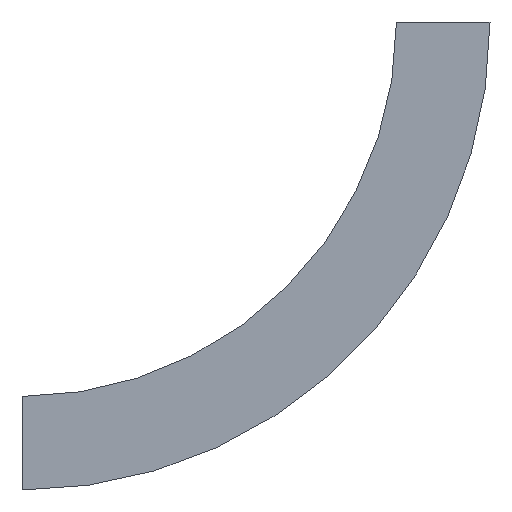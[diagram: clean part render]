
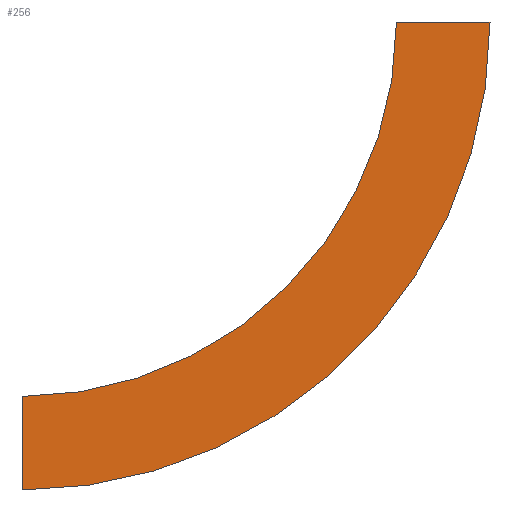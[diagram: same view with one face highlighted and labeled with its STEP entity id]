
A CAD part, left-side view. The second image highlights one B-rep face of the part: STEP entity #256.
In plain terms, the highlighted planar face has unit normal (-1, 0, 0) as drawn and (1, 0, 0) by its records, which use the part's own axes.
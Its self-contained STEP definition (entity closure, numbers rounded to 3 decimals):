
#7 = LINE ( 'NONE', #177, #141 ) ;
#19 = DIRECTION ( 'NONE',  ( 0., -1., 0. ) ) ;
#21 = CIRCLE ( 'NONE', #130, 300. ) ;
#55 = DIRECTION ( 'NONE',  ( 0., 0., 1. ) ) ;
#84 = EDGE_CURVE ( 'NONE', #325, #444, #21, .T. ) ;
#93 = LINE ( 'NONE', #188, #490 ) ;
#107 = EDGE_CURVE ( 'NONE', #503, #394, #242, .T. ) ;
#108 = PLANE ( 'NONE',  #567 ) ;
#130 = AXIS2_PLACEMENT_3D ( 'NONE', #403, #189, #543 ) ;
#141 = VECTOR ( 'NONE', #191, 1000. ) ;
#177 = CARTESIAN_POINT ( 'NONE',  ( 0., -75., 0. ) ) ;
#188 = CARTESIAN_POINT ( 'NONE',  ( 0., 300., -375. ) ) ;
#189 = DIRECTION ( 'NONE',  ( 1., 0., 0. ) ) ;
#191 = DIRECTION ( 'NONE',  ( 0., 1., 0. ) ) ;
#193 = DIRECTION ( 'NONE',  ( 1., 0., 0. ) ) ;
#217 = EDGE_CURVE ( 'NONE', #394, #444, #93, .T. ) ;
#242 = CIRCLE ( 'NONE', #572, 375. ) ;
#250 = CARTESIAN_POINT ( 'NONE',  ( 0., 300., -375. ) ) ;
#254 = EDGE_CURVE ( 'NONE', #503, #325, #7, .T. ) ;
#255 = ORIENTED_EDGE ( 'NONE', *, *, #254, .F. ) ;
#256 = ADVANCED_FACE ( 'NONE', ( #283 ), #108, .F. ) ;
#283 = FACE_OUTER_BOUND ( 'NONE', #579, .T. ) ;
#309 = CARTESIAN_POINT ( 'NONE',  ( 0., -75., 0. ) ) ;
#314 = ORIENTED_EDGE ( 'NONE', *, *, #107, .T. ) ;
#325 = VERTEX_POINT ( 'NONE', #544 ) ;
#327 = DIRECTION ( 'NONE',  ( -1., 0., 0. ) ) ;
#347 = ORIENTED_EDGE ( 'NONE', *, *, #217, .T. ) ;
#363 = DIRECTION ( 'NONE',  ( 0., 0., 1. ) ) ;
#365 = ORIENTED_EDGE ( 'NONE', *, *, #84, .F. ) ;
#367 = CARTESIAN_POINT ( 'NONE',  ( 0., -75., 0. ) ) ;
#394 = VERTEX_POINT ( 'NONE', #250 ) ;
#403 = CARTESIAN_POINT ( 'NONE',  ( 0., 300., 0. ) ) ;
#444 = VERTEX_POINT ( 'NONE', #507 ) ;
#447 = CARTESIAN_POINT ( 'NONE',  ( 0., 300., 0. ) ) ;
#490 = VECTOR ( 'NONE', #363, 1000. ) ;
#503 = VERTEX_POINT ( 'NONE', #309 ) ;
#507 = CARTESIAN_POINT ( 'NONE',  ( 0., 300., -300. ) ) ;
#543 = DIRECTION ( 'NONE',  ( 0., -1., 0. ) ) ;
#544 = CARTESIAN_POINT ( 'NONE',  ( 0., 0., 0. ) ) ;
#567 = AXIS2_PLACEMENT_3D ( 'NONE', #367, #327, #55 ) ;
#572 = AXIS2_PLACEMENT_3D ( 'NONE', #447, #193, #19 ) ;
#579 = EDGE_LOOP ( 'NONE', ( #365, #255, #314, #347 ) ) ;
